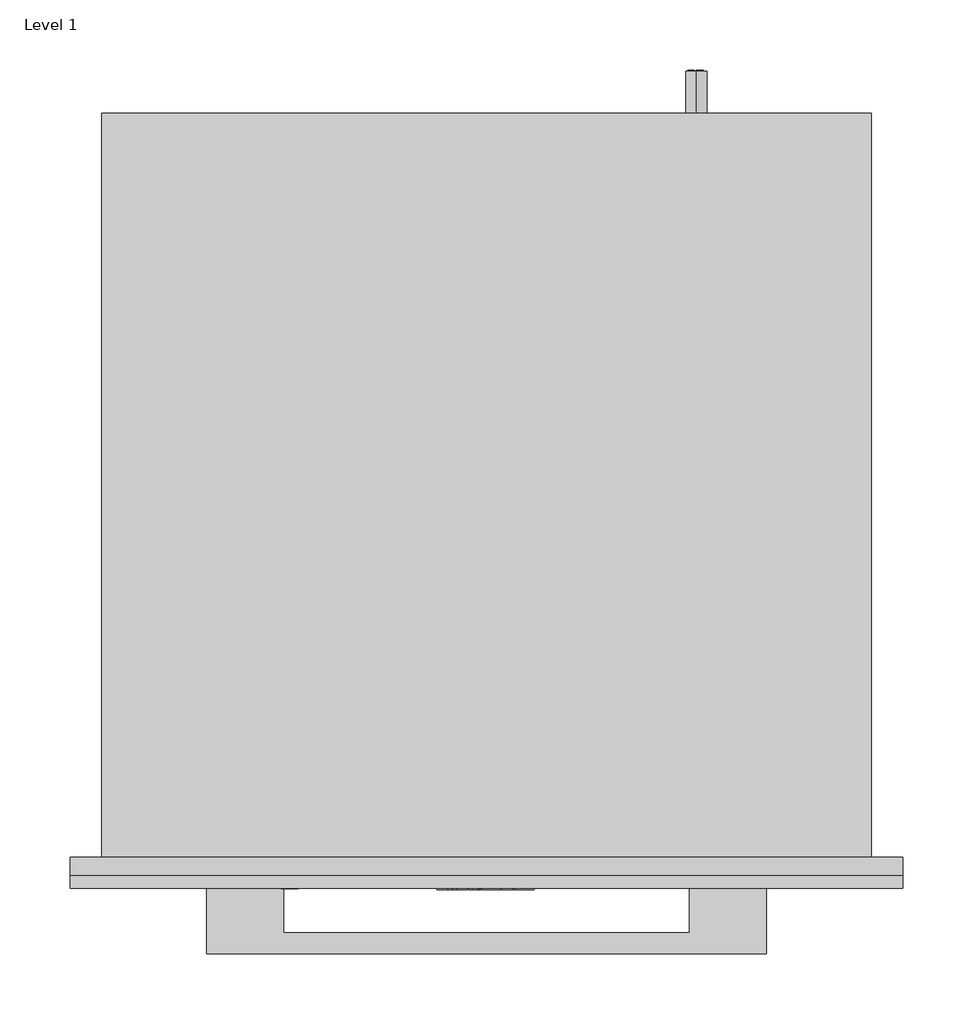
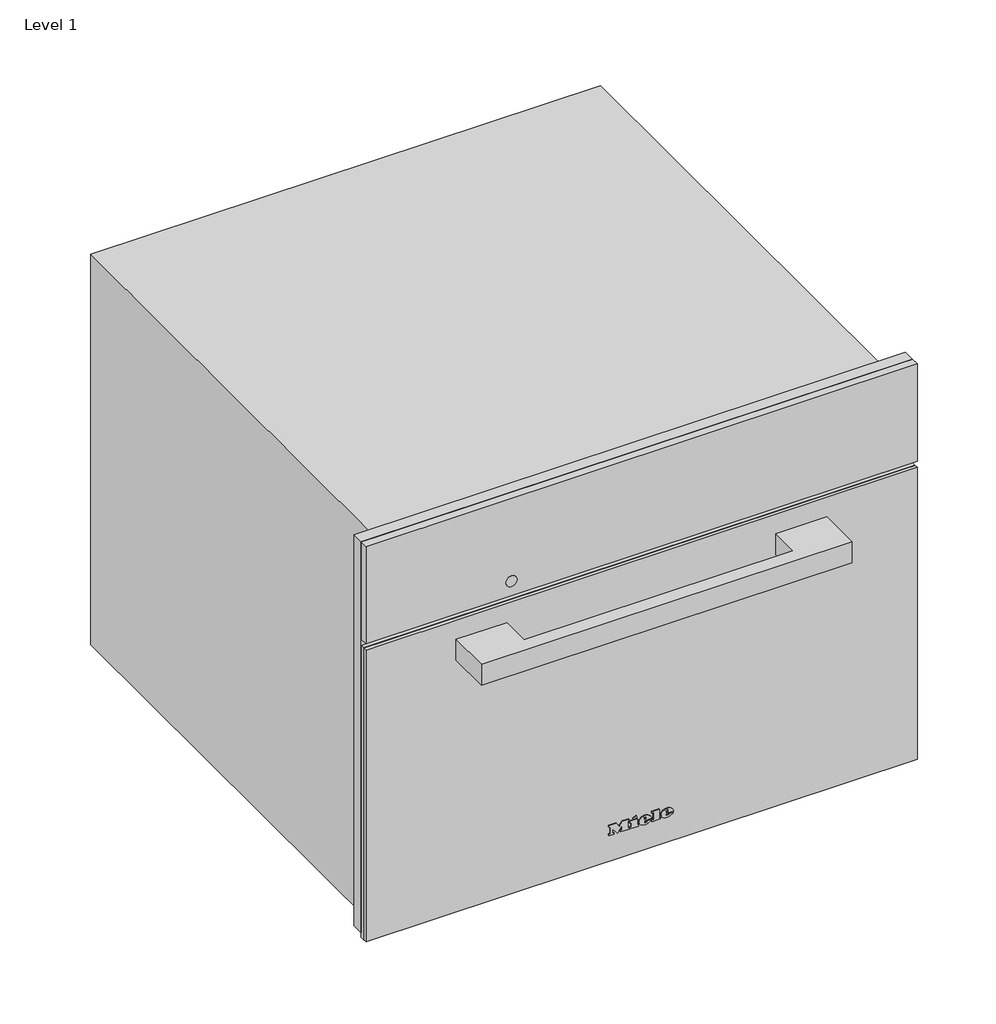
# One storey: 1 proxy.
"""IFC4 building model written with IfcOpenShell, lengths in millimetres."""

import ifcopenshell
import ifcopenshell.guid

model = None  # the IFC model being written
_history = None  # IfcOwnerHistory: only IFC2X3 demands one
_inside = {}  # id of a spatial element -> (the spatial element, [elements in it])
_under = {}  # id of a project, library or spatial element -> (it, [spatial elements below it])
_declared = {}  # id of a project -> (the project, [libraries it declares])
_typed = {}  # id of a type object -> (the type object, [elements of that type])
_made_of = {}  # id of a material, layer set ... -> (it, [elements and type objects made of it])


def new_model(schema):
    """Start an empty IFC model of exactly this schema.

    Asked for "IFC4X3", IfcOpenShell would pick the latest addendum, in which some entities
    have other attributes; the version numbers below select the first issue.
    IFC2X3 requires an IfcOwnerHistory on every rooted entity: one is made here for all.
    """
    global model, _history
    if schema == "IFC4X3":
        model = ifcopenshell.file(schema_version=(4, 3, 0, 0))
    else:
        model = ifcopenshell.file(schema=schema)
    _inside.clear()
    _under.clear()
    _declared.clear()
    _typed.clear()
    _made_of.clear()
    _history = None
    if model.schema == "IFC2X3":
        org = make("IfcOrganization", Name="unknown")
        user = make(
            "IfcPersonAndOrganization",
            ThePerson=make("IfcPerson", FamilyName="unknown"),
            TheOrganization=org,
        )
        app = make(
            "IfcApplication",
            ApplicationDeveloper=org,
            Version="unknown",
            ApplicationFullName="unknown",
            ApplicationIdentifier="unknown",
        )
        _history = make(
            "IfcOwnerHistory",
            OwningUser=user,
            OwningApplication=app,
            ChangeAction="ADDED",
            CreationDate=0,
        )
    return model


def make(cls, **values):
    """One entity of the class cls with the attributes given. An attribute that is None is left unset."""
    return model.create_entity(
        cls, **{name: value for name, value in values.items() if value is not None}
    )


def rooted(cls, **values):
    """An entity with a GlobalId (a new one), such as an element, a storey or a relation."""
    return make(cls, GlobalId=ifcopenshell.guid.new(), OwnerHistory=_history, **values)


def si_unit(unit_type, name, prefix=None):
    """IfcSIUnit, for example si_unit("LENGTHUNIT", "METRE", prefix="MILLI")."""
    return make("IfcSIUnit", UnitType=unit_type, Prefix=prefix, Name=name)


def assignment(units):
    """IfcUnitAssignment: the units of a project."""
    return None if units is None else make("IfcUnitAssignment", Units=units)


def point(xyz):
    """IfcCartesianPoint."""
    return None if xyz is None else make("IfcCartesianPoint", Coordinates=xyz)


def direction(xyz):
    """IfcDirection."""
    return None if xyz is None else make("IfcDirection", DirectionRatios=xyz)


def frame(location, z_axis=None, x_axis=None):
    """IfcAxis2Placement3D, a coordinate frame: its origin and axes. An axis left out is left unset."""
    return make(
        "IfcAxis2Placement3D",
        Location=point(location),
        Axis=direction(z_axis),
        RefDirection=direction(x_axis),
    )


def frame_2d(location, x_axis=None):
    """IfcAxis2Placement2D, a coordinate frame in the plane: its origin and x axis."""
    return make(
        "IfcAxis2Placement2D", Location=point(location), RefDirection=direction(x_axis)
    )


def origin():
    """The frame at (0, 0, 0) with its axes left unset."""
    return frame((0.0, 0.0, 0.0))


def place(relative_to, where):
    """IfcLocalPlacement: puts the frame where relative to a parent placement (None: the world)."""
    return make(
        "IfcLocalPlacement", PlacementRelTo=relative_to, RelativePlacement=where
    )


def context(
    kind, dimensions, precision=None, world=None, true_north=None, identifier=None
):
    """IfcGeometricRepresentationContext, for example the 3D "Model" context."""
    return make(
        "IfcGeometricRepresentationContext",
        ContextIdentifier=identifier,
        ContextType=kind,
        CoordinateSpaceDimension=dimensions,
        Precision=precision,
        WorldCoordinateSystem=world,
        TrueNorth=true_north,
    )


def project(units=None, contexts=None):
    """IfcProject with its units and contexts."""
    return rooted(
        "IfcProject",
        Name="project",
        RepresentationContexts=contexts,
        UnitsInContext=assignment(units),
    )


def spatial(cls, under=None, at=None, **own):
    """A site, building, storey or space (cls), placed at a placement, below another one or the project."""
    s = rooted(cls, ObjectPlacement=at, **own)
    if under is not None:
        _under.setdefault(under.id(), (under, []))[1].append(s)
    return s


def polyline(points):
    """IfcPolyline through the points."""
    return make("IfcPolyline", Points=[point(p) for p in points])


def circle_curve(where, radius):
    """IfcCircle in the frame where."""
    return make("IfcCircle", Position=where, Radius=radius)


def ellipse_curve(where, semi_axis1, semi_axis2):
    """IfcEllipse in the frame where."""
    return make(
        "IfcEllipse", Position=where, SemiAxis1=semi_axis1, SemiAxis2=semi_axis2
    )


def trimmed(basis, trim1, trim2, sense, master):
    """IfcTrimmedCurve: the piece of a basis curve between two trims."""
    return make(
        "IfcTrimmedCurve",
        BasisCurve=basis,
        Trim1=trim1,
        Trim2=trim2,
        SenseAgreement=sense,
        MasterRepresentation=master,
    )


def segment(curve, same_sense, transition):
    """IfcCompositeCurveSegment."""
    return make(
        "IfcCompositeCurveSegment",
        Transition=transition,
        SameSense=same_sense,
        ParentCurve=curve,
    )


def composite_curve(segments, self_intersect=None):
    """IfcCompositeCurve: segments joined end to end."""
    return make("IfcCompositeCurve", Segments=segments, SelfIntersect=self_intersect)


def outline(outer, holes=None, kind="AREA"):
    """IfcArbitraryClosedProfileDef: a profile drawn as a closed curve; with holes, ...WithVoids."""
    if holes is None:
        return make("IfcArbitraryClosedProfileDef", ProfileType=kind, OuterCurve=outer)
    return make(
        "IfcArbitraryProfileDefWithVoids",
        ProfileType=kind,
        OuterCurve=outer,
        InnerCurves=holes,
    )


def extrude(swept, where, along, depth):
    """IfcExtrudedAreaSolid: the profile swept, set in the frame where, extruded along a direction by depth."""
    return make(
        "IfcExtrudedAreaSolid",
        SweptArea=swept,
        Position=where,
        ExtrudedDirection=direction(along),
        Depth=depth,
    )


def faces_of(points, faces, orient=None, outer=None):
    """IfcFace entities. A face is a list of loops; a loop is a list of indices into points, from 0.

    orient and outer hold one flag for each loop. By default every Orientation is true, the
    first loop of a face is its IfcFaceOuterBound and the others are IfcFaceBound.
    """
    made = []
    for i, loops in enumerate(faces):
        bounds = []
        for j, loop in enumerate(loops):
            is_outer = j == 0 if outer is None else outer[i][j]
            bounds.append(
                make(
                    "IfcFaceOuterBound" if is_outer else "IfcFaceBound",
                    Bound=make("IfcPolyLoop", Polygon=[points[k] for k in loop]),
                    Orientation=True if orient is None else orient[i][j],
                )
            )
        made.append(make("IfcFace", Bounds=bounds))
    return made


def faceted_brep(points, faces, orient=None, outer=None, voids=None):
    """IfcFacetedBrep: a solid bounded by flat faces; with voids (closed shells), ...WithVoids."""
    shared = [point(p) for p in points]
    hull = make("IfcClosedShell", CfsFaces=faces_of(shared, faces, orient, outer))
    if voids is None:
        return make("IfcFacetedBrep", Outer=hull)
    return make(
        "IfcFacetedBrepWithVoids",
        Outer=hull,
        Voids=[
            make(cls, CfsFaces=faces_of(shared, fs, o, b)) for cls, fs, o, b in voids
        ],
    )


def shape(context_of_items, identifier, shape_type, items):
    """IfcShapeRepresentation: the items that make up one representation, for example the "Body"."""
    return make(
        "IfcShapeRepresentation",
        ContextOfItems=context_of_items,
        RepresentationIdentifier=identifier,
        RepresentationType=shape_type,
        Items=items,
    )


def source(mapping_origin, context_of_items, identifier, shape_type, items):
    """IfcRepresentationMap: a shape defined once, which mapped items show again and again."""
    return make(
        "IfcRepresentationMap",
        MappingOrigin=mapping_origin,
        MappedRepresentation=shape(context_of_items, identifier, shape_type, items),
    )


def transform(
    local_origin,
    x_axis=None,
    y_axis=None,
    z_axis=None,
    scale=None,
    scale2=None,
    scale3=None,
    uniform=True,
):
    """IfcCartesianTransformationOperator3D, or its non-uniform kind. x_axis, y_axis, z_axis: its Axis1, 2, 3."""
    if uniform:
        return make(
            "IfcCartesianTransformationOperator3D",
            Axis1=direction(x_axis),
            Axis2=direction(y_axis),
            LocalOrigin=point(local_origin),
            Scale=scale,
            Axis3=direction(z_axis),
        )
    return make(
        "IfcCartesianTransformationOperator3DnonUniform",
        Axis1=direction(x_axis),
        Axis2=direction(y_axis),
        LocalOrigin=point(local_origin),
        Scale=scale,
        Axis3=direction(z_axis),
        Scale2=scale2,
        Scale3=scale3,
    )


def mapped(mapping_source, mapping_target):
    """IfcMappedItem: shows the shape of a source again, moved by a transform."""
    return make(
        "IfcMappedItem", MappingSource=mapping_source, MappingTarget=mapping_target
    )


def made_of(thing, what):
    """Note that an element or type object is made of a material, layer set ...; save() writes the relation."""
    if what is not None:
        _made_of.setdefault(what.id(), (what, []))[1].append(thing)
    return thing


def element(
    cls,
    number,
    at=None,
    inside=None,
    cuts=None,
    type_object=None,
    material=None,
    context=None,
    identifier="Body",
    shape_type=None,
    held_by="IfcProductDefinitionShape",
    body=None,
    shapes=None,
    **own,
):
    """One element of the class cls, such as IfcWall. Its Tag is "e" and its number.

    at: its placement. inside: the storey or other place that contains it. cuts: it is an
    opening in that element (IfcRelVoidsElement). A single representation is given by context,
    identifier, shape_type and body (its items); several are given by shapes. held_by: the class
    of the entity that holds the representations. save() writes the other relations.
    """
    e = rooted(cls, Tag="e%d" % number, ObjectPlacement=at, **own)
    if body is not None:
        shapes = [shape(context, identifier, shape_type, body)]
    if shapes is not None:
        e.Representation = make(held_by, Representations=shapes)
    if inside is not None:
        _inside.setdefault(inside.id(), (inside, []))[1].append(e)
    if cuts is not None:
        rooted(
            "IfcRelVoidsElement", RelatingBuildingElement=cuts, RelatedOpeningElement=e
        )
    if type_object is not None:
        _typed.setdefault(type_object.id(), (type_object, []))[1].append(e)
    return made_of(e, material)


def aggregate(whole, parts):
    """IfcRelAggregates: a whole, such as a stair, and the parts it consists of."""
    return rooted("IfcRelAggregates", RelatingObject=whole, RelatedObjects=parts)


def save(model, path):
    """Write the relations noted so far, then the file.

    IfcRelAggregates (storeys below a building ...), IfcRelContainedInSpatialStructure (elements
    in a storey), IfcRelDefinesByType, IfcRelAssociatesMaterial and IfcRelDeclares: one each for
    every whole, place, type object, material and project.
    """
    for whole, parts in _under.values():
        aggregate(whole, parts)
    for where, things in _inside.values():
        rooted(
            "IfcRelContainedInSpatialStructure",
            RelatedElements=things,
            RelatingStructure=where,
        )
    for kind, things in _typed.values():
        rooted("IfcRelDefinesByType", RelatedObjects=things, RelatingType=kind)
    for what, things in _made_of.values():
        rooted("IfcRelAssociatesMaterial", RelatedObjects=things, RelatingMaterial=what)
    for by, libraries in _declared.values():
        rooted("IfcRelDeclares", RelatingContext=by, RelatedDefinitions=libraries)
    model.write(path)


def plane_surface(at):
    """IfcPlane: the flat surface through the origin of the frame at, square to its z axis."""
    return make("IfcPlane", Position=at)


def cylinder_surface(at, radius):
    """IfcCylindricalSurface: all points at the distance radius from the z axis of the frame at."""
    return make("IfcCylindricalSurface", Position=at, Radius=radius)


def revolved_surface(curve, axis_point, axis_direction):
    """IfcSurfaceOfRevolution: the curve turned about the line through axis_point along axis_direction."""
    return make(
        "IfcSurfaceOfRevolution",
        SweptCurve=make("IfcArbitraryOpenProfileDef", ProfileType="CURVE", Curve=curve),
        AxisPosition=make("IfcAxis1Placement", Location=point(axis_point), Axis=direction(axis_direction)),
    )


def extruded_surface(curve, direction_of_extrusion, depth):
    """IfcSurfaceOfLinearExtrusion: the curve pushed along a direction by depth."""
    return make(
        "IfcSurfaceOfLinearExtrusion",
        SweptCurve=make("IfcArbitraryOpenProfileDef", ProfileType="CURVE", Curve=curve),
        ExtrudedDirection=direction(direction_of_extrusion),
        Depth=depth,
    )


def advanced_brep(points, edges, surfaces, faces):
    """IfcAdvancedBrep: a solid bounded by faces that lie on surfaces and meet in shared edges.

    An edge is (start, end): straight between two places in points (the first is 0);
    or (start, end, curve); or (start, end, curve, False) where it runs against its curve.
    A face is (place in surfaces, loops), or (place, loops, False) where it looks against
    its surface's normal. A loop lists edges by number (the first is 1), with a minus sign
    where the edge is run from its end to its start. The first loop is the outer one.
    """
    corners = [point(p) for p in points]
    vertices = [make("IfcVertexPoint", VertexGeometry=c) for c in corners]
    made = []
    for start, end, *more in edges:
        made.append(
            make(
                "IfcEdgeCurve",
                EdgeStart=vertices[start],
                EdgeEnd=vertices[end],
                EdgeGeometry=more[0] if more else make("IfcPolyline", Points=[corners[start], corners[end]]),
                SameSense=more[1] if len(more) > 1 else True,
            )
        )
    hull = []
    for where, loops, *sense in faces:
        bounds = []
        for j, loop in enumerate(loops):
            ring = [make("IfcOrientedEdge", EdgeElement=made[abs(k) - 1], Orientation=k > 0) for k in loop]
            bounds.append(
                make(
                    "IfcFaceOuterBound" if j == 0 else "IfcFaceBound",
                    Bound=make("IfcEdgeLoop", EdgeList=ring),
                    Orientation=True,
                )
            )
        hull.append(make("IfcAdvancedFace", Bounds=bounds, FaceSurface=surfaces[where], SameSense=sense[0] if sense else True))
    return make("IfcAdvancedBrep", Outer=make("IfcClosedShell", CfsFaces=hull))


def specialty_equipment_aa7fc179(model_context):
    return source(origin(), model_context, "Body", "SolidModel", [
        extrude(outline(polyline([(455.0, 297.5), (455.0, -297.5), (9.0, -297.5), (9.0, -272.5), (344.0, -272.5), (344.0, 272.5), (9.0, 272.5), (9.0, 297.5), (455.0, 297.5)])), frame((0.0, -13.0, 0.0), z_axis=(0.0, 1.0, 0.0), x_axis=(0.0, 0.0, 1.0)), (0.0, 0.0, 1.0), 13.0),
        advanced_brep(
        [(150.0, 561.0, 410.5), (150.0, 561.0, 395.5), (144.4098301, 561.0, 398.0), (148.5, 561.0, 398.0), (148.5, 561.0, 408.0), (147.4955303, 561.0, 408.0), (147.4955303, 561.0, 399.0), (144.0315043, 561.0, 399.0), (144.0315043, 561.0, 398.4582978), (155.0, 561.0, 398.0), (155.0, 561.0, 408.0), (150.0, 561.0, 408.0), (150.0, 561.0, 407.0), (154.0, 561.0, 407.0), (154.0, 561.0, 403.5), (151.0, 561.0, 403.5), (151.0, 561.0, 402.5), (154.0, 561.0, 402.5), (154.0, 561.0, 399.0), (150.0, 561.0, 399.0), (150.0, 561.0, 398.0), (150.0, 531.0, 395.5), (150.0, 531.0, 410.5), (155.0, 562.0, 408.0), (155.0, 562.0, 398.0), (150.0, 562.0, 398.0), (150.0, 562.0, 399.0), (154.0, 562.0, 399.0), (154.0, 562.0, 402.5), (151.0, 562.0, 402.5), (151.0, 562.0, 403.5), (154.0, 562.0, 403.5), (154.0, 562.0, 407.0), (150.0, 562.0, 407.0), (150.0, 562.0, 408.0), (148.5, 562.0, 398.0), (144.0315043, 562.0, 398.0), (144.0315043, 562.0, 399.0), (147.4955303, 562.0, 399.0), (147.4955303, 562.0, 408.0), (148.5, 562.0, 408.0), (144.0315043, 561.0, 398.0)],
        [
            (0, 1, circle_curve(frame((150.0, 561.0, 403.0), z_axis=(0.0, 1.0, 0.0), x_axis=(0.0, 0.0, 1.0)), 7.5)),
            (1, 2, circle_curve(frame((150.0, 561.0, 403.0), z_axis=(0.0, 1.0, 0.0), x_axis=(0.0, 0.0, 1.0)), 7.5)),
            (2, 3),
            (3, 4),
            (4, 5),
            (5, 6),
            (6, 7),
            (7, 8),
            (8, 0, circle_curve(frame((150.0, 561.0, 403.0), z_axis=(0.0, 1.0, 0.0), x_axis=(0.0, 0.0, 1.0)), 7.5)),
            (9, 10),
            (10, 11),
            (11, 12),
            (12, 13),
            (13, 14),
            (14, 15),
            (15, 16),
            (16, 17),
            (17, 18),
            (18, 19),
            (19, 20),
            (20, 9),
            (21, 22, circle_curve(frame((150.0, 531.0, 403.0), z_axis=(0.0, -1.0, 0.0), x_axis=(0.0, 0.0, 1.0)), 7.5)),
            (22, 21, circle_curve(frame((150.0, 531.0, 403.0), z_axis=(0.0, -1.0, 0.0), x_axis=(0.0, 0.0, 1.0)), 7.5)),
            (0, 22),
            (21, 1),
            (8, 2, circle_curve(frame((150.0, 561.0, 403.0), z_axis=(0.0, -1.0, 0.0), x_axis=(0.0, 0.0, 1.0)), 7.5)),
            (23, 24),
            (24, 25),
            (25, 26),
            (26, 27),
            (27, 28),
            (28, 29),
            (29, 30),
            (30, 31),
            (31, 32),
            (32, 33),
            (33, 34),
            (34, 23),
            (35, 36),
            (36, 37),
            (37, 38),
            (38, 39),
            (39, 40),
            (40, 35),
            (8, 41),
            (41, 2),
            (23, 10),
            (9, 24),
            (20, 25),
            (19, 26),
            (18, 27),
            (17, 28),
            (16, 29),
            (15, 30),
            (14, 31),
            (13, 32),
            (12, 33),
            (11, 34),
            (35, 3),
            (41, 36),
            (7, 37),
            (6, 38),
            (5, 39),
            (4, 40),
        ],
        [
            plane_surface(frame((150.0, 561.0, 410.5), z_axis=(0.0, 1.0, 0.0), x_axis=(1.0, 0.0, 0.0))),
            plane_surface(frame((150.0, 531.0, 410.5), z_axis=(0.0, -1.0, 0.0), x_axis=(-1.0, 0.0, 0.0))),
            cylinder_surface(frame((150.0, 561.0, 403.0), z_axis=(0.0, -1.0, 0.0), x_axis=(0.0, 0.0, 1.0)), 7.5),
            plane_surface(frame((155.0, 562.0, 408.0), z_axis=(0.0, 1.0, 0.0), x_axis=(0.0, 0.0, -1.0))),
            plane_surface(frame((155.0, 561.0, 408.0), z_axis=(0.0, -1.0, 0.0), x_axis=(0.0, 0.0, 1.0))),
            plane_surface(frame((155.0, 562.0, 408.0), z_axis=(1.0, 0.0, 0.0), x_axis=(0.0, -1.0, 0.0))),
            plane_surface(frame((155.0, 562.0, 398.0), z_axis=(0.0, 0.0, -1.0), x_axis=(0.0, -1.0, 0.0))),
            plane_surface(frame((150.0, 562.0, 398.0), z_axis=(-1.0, 0.0, 0.0), x_axis=(0.0, -1.0, 0.0))),
            plane_surface(frame((150.0, 562.0, 399.0), z_axis=(0.0, 0.0, 1.0), x_axis=(0.0, -1.0, 0.0))),
            plane_surface(frame((154.0, 562.0, 399.0), z_axis=(-1.0, 0.0, 0.0), x_axis=(0.0, -1.0, 0.0))),
            plane_surface(frame((154.0, 562.0, 402.5), z_axis=(0.0, 0.0, -1.0), x_axis=(0.0, -1.0, 0.0))),
            plane_surface(frame((151.0, 562.0, 402.5), z_axis=(-1.0, 0.0, 0.0), x_axis=(0.0, -1.0, 0.0))),
            plane_surface(frame((151.0, 562.0, 403.5), z_axis=(0.0, 0.0, 1.0), x_axis=(0.0, -1.0, 0.0))),
            plane_surface(frame((154.0, 562.0, 403.5), z_axis=(-1.0, 0.0, 0.0), x_axis=(0.0, -1.0, 0.0))),
            plane_surface(frame((154.0, 562.0, 407.0), z_axis=(0.0, 0.0, -1.0), x_axis=(0.0, -1.0, 0.0))),
            plane_surface(frame((150.0, 562.0, 407.0), z_axis=(-1.0, 0.0, 0.0), x_axis=(0.0, -1.0, 0.0))),
            plane_surface(frame((150.0, 562.0, 408.0), z_axis=(0.0, 0.0, 1.0), x_axis=(0.0, -1.0, 0.0))),
            plane_surface(frame((148.5, 562.0, 398.0), z_axis=(0.0, 0.0, -1.0), x_axis=(0.0, -1.0, 0.0))),
            plane_surface(frame((144.0315043, 562.0, 398.0), z_axis=(-1.0, 0.0, 0.0), x_axis=(0.0, -1.0, 0.0))),
            plane_surface(frame((144.0315043, 562.0, 399.0), z_axis=(0.0, 0.0, 1.0), x_axis=(0.0, -1.0, 0.0))),
            plane_surface(frame((147.4955303, 562.0, 399.0), z_axis=(-1.0, 0.0, 0.0), x_axis=(0.0, -1.0, 0.0))),
            plane_surface(frame((147.4955303, 562.0, 408.0), z_axis=(0.0, 0.0, 1.0), x_axis=(0.0, -1.0, 0.0))),
            plane_surface(frame((148.5, 562.0, 408.0), z_axis=(1.0, 0.0, 0.0), x_axis=(0.0, -1.0, 0.0))),
        ],
        [
            (0, [[1, 2, 3, 4, 5, 6, 7, 8, 9], [10, 11, 12, 13, 14, 15, 16, 17, 18, 19, 20, 21]]),
            (1, [[22, 23]]),
            (2, [[-1, 24, -22, 25]]),
            (2, [[-23, -24, -9, 26, -2, -25]]),
            (3, [[27, 28, 29, 30, 31, 32, 33, 34, 35, 36, 37, 38]]),
            (3, [[39, 40, 41, 42, 43, 44]]),
            (4, [[45, 46, -26]]),
            (5, [[-27, 47, -10, 48]]),
            (6, [[-28, -48, -21, 49]]),
            (7, [[-29, -49, -20, 50]]),
            (8, [[-30, -50, -19, 51]]),
            (9, [[-31, -51, -18, 52]]),
            (10, [[-32, -52, -17, 53]]),
            (11, [[-33, -53, -16, 54]]),
            (12, [[-34, -54, -15, 55]]),
            (13, [[-35, -55, -14, 56]]),
            (14, [[-36, -56, -13, 57]]),
            (15, [[-37, -57, -12, 58]]),
            (16, [[-38, -58, -11, -47]]),
            (17, [[-39, 59, -3, -46, 60]]),
            (18, [[-40, -60, -45, -8, 61]]),
            (19, [[-41, -61, -7, 62]]),
            (20, [[-42, -62, -6, 63]]),
            (21, [[-43, -63, -5, 64]]),
            (22, [[-44, -64, -4, -59]]),
        ],
    ),
        faceted_brep([(275.0, 531.0, 445.0), (275.0, 531.0, 0.0), (-275.0, 531.0, 0.0), (-275.0, 531.0, 445.0), (275.0, 0.0, 445.0), (-275.0, 0.0, 445.0), (-275.0, 0.0, 0.0), (275.0, 0.0, 0.0), (-272.5, 0.0, 344.0), (272.5, 0.0, 344.0), (272.5, 0.0, 8.0), (-272.5, 0.0, 8.0), (272.5, 12.0, 344.0), (-272.5, 12.0, 344.0), (-272.5, 12.0, 8.0), (272.5, 12.0, 8.0), (161.0, 12.0, 286.0), (161.0, 12.0, 58.0), (-220.0, 12.0, 58.0), (-220.0, 12.0, 286.0), (161.0, 419.0, 286.0), (-220.0, 419.0, 286.0), (-220.0, 419.0, 58.0), (161.0, 419.0, 58.0)], [[[0, 1, 2, 3]], [[4, 5, 6, 7], [8, 9, 10, 11]], [[0, 3, 5, 4]], [[3, 2, 6, 5]], [[2, 1, 7, 6]], [[1, 0, 4, 7]], [[12, 13, 14, 15], [16, 17, 18, 19]], [[13, 12, 9, 8]], [[14, 13, 8, 11]], [[15, 14, 11, 10]], [[12, 15, 10, 9]], [[20, 21, 22, 23]], [[20, 23, 17, 16]], [[23, 22, 18, 17]], [[22, 21, 19, 18]], [[21, 20, 16, 19]]]),
        advanced_brep(
        [(26.2998, -23.0, 36.7018), (26.2998, -23.0, 37.8532), (33.9264, -23.0, 37.8532), (20.6568, -23.0, 37.8532), (23.7918, -23.0, 34.0), (33.7326, -23.0, 36.7018), (30.2898, -23.0, 36.7018), (27.5766, -23.0, 35.425), (26.2998, -23.0, 39.3124), (26.2998, -23.0, 40.555), (28.2492, -23.0, 40.555), (28.2492, -23.0, 39.3124), (26.2998, -22.0, 36.7018), (27.5766, -22.0, 35.425), (30.2898, -22.0, 36.7018), (33.7326, -22.0, 36.7018), (23.7918, -22.0, 34.0), (20.6568, -22.0, 37.8532), (33.9264, -22.0, 37.8532), (26.2998, -22.0, 37.8532), (26.2998, -22.0, 39.3124), (28.2492, -22.0, 39.3124), (28.2492, -22.0, 40.555), (26.2998, -22.0, 40.555)],
        [
            (0, 1),
            (1, 2),
            (2, 3, ellipse_curve(frame((27.2916, -23.0, 37.8532), z_axis=(0.0, -1.0, 0.0), x_axis=(-1.0, 0.0, 0.0)), 6.6348, 5.4834)),
            (3, 4, circle_curve(frame((25.0686622, -23.0, 38.2408), z_axis=(0.0, -1.0, 0.0), x_axis=(0.0, 0.0, -1.0)), 4.4288556)),
            (4, 5, circle_curve(frame((27.1587808, -23.0, 41.2504), z_axis=(0.0, -1.0, 0.0), x_axis=(0.0, 0.0, -1.0)), 7.9940516)),
            (5, 6),
            (6, 7, circle_curve(frame((28.1338588, -23.0, 37.762), z_axis=(0.0, 1.0, 0.0), x_axis=(0.0, 0.0, -1.0)), 2.4025208)),
            (7, 0, circle_curve(frame((27.5766, -23.0, 36.7018), z_axis=(0.0, 1.0, 0.0), x_axis=(0.0, 0.0, -1.0)), 1.2768)),
            (8, 9),
            (9, 10, circle_curve(frame((27.2745, -23.0, 40.555), z_axis=(0.0, 1.0, 0.0), x_axis=(0.0, 0.0, -1.0)), 0.9747)),
            (10, 11),
            (11, 8),
            (12, 13, circle_curve(frame((27.5766, -22.0, 36.7018), z_axis=(0.0, -1.0, 0.0), x_axis=(0.0, 0.0, -1.0)), 1.2768)),
            (13, 14, circle_curve(frame((28.1338588, -22.0, 37.762), z_axis=(0.0, -1.0, 0.0), x_axis=(0.0, 0.0, -1.0)), 2.4025208)),
            (14, 15),
            (15, 16, circle_curve(frame((27.1587808, -22.0, 41.2504), z_axis=(0.0, 1.0, 0.0), x_axis=(0.0, 0.0, -1.0)), 7.9940516)),
            (16, 17, circle_curve(frame((25.0686622, -22.0, 38.2408), z_axis=(0.0, 1.0, 0.0), x_axis=(0.0, 0.0, -1.0)), 4.4288556)),
            (17, 18, ellipse_curve(frame((27.2916, -22.0, 37.8532), z_axis=(0.0, 1.0, 0.0), x_axis=(-1.0, 0.0, 0.0)), 6.6348, 5.4834)),
            (18, 19),
            (19, 12),
            (20, 21),
            (21, 22),
            (22, 23, circle_curve(frame((27.2745, -22.0, 40.555), z_axis=(0.0, -1.0, 0.0), x_axis=(0.0, 0.0, -1.0)), 0.9747)),
            (23, 20),
            (0, 12),
            (19, 1),
            (18, 2),
            (5, 15),
            (14, 6),
            (17, 3),
            (13, 7),
            (16, 4),
            (8, 20),
            (23, 9),
            (22, 10),
            (21, 11),
        ],
        [
            plane_surface(frame((26.2998, -23.0, 37.8532), z_axis=(0.0, -1.0, 0.0), x_axis=(0.0, 0.0, 1.0))),
            plane_surface(frame((26.2998, -22.0, 37.8532), z_axis=(0.0, 1.0, 0.0), x_axis=(0.0, 0.0, -1.0))),
            plane_surface(frame((26.2998, -23.0, 36.7018), z_axis=(1.0, 0.0, 0.0), x_axis=(0.0, 1.0, 0.0))),
            plane_surface(frame((26.2998, -23.0, 37.8532), z_axis=(0.0, 0.0, -1.0), x_axis=(0.0, 1.0, 0.0))),
            plane_surface(frame((33.7326, -23.0, 36.7018), z_axis=(0.0, 0.0, 1.0), x_axis=(0.0, 1.0, 0.0))),
            extruded_surface(trimmed(ellipse_curve(frame((27.2916, -21.0, 37.8532), z_axis=(0.0, -1.0, 0.0), x_axis=(-1.0, 0.0, 0.0)), 6.6348, 5.4834), [point((33.9264, -21.0, 37.8532))], [point((20.6568, -21.0, 37.8532))], True, "CARTESIAN"), (0.0, -1.0, 0.0), 1.0),
            revolved_surface(polyline([(28.1338588, -22.0, 35.3594792), (28.1338588, -23.0, 35.3594792)]), (28.1338588, -22.0, 37.762), (0.0, 1.0, 0.0)),
            revolved_surface(polyline([(27.5766, -22.0, 35.425), (27.5766, -23.0, 35.425)]), (27.5766, -22.0, 36.7018), (0.0, 1.0, 0.0)),
            cylinder_surface(frame((25.0686622, -22.0, 38.2408), z_axis=(0.0, -1.0, 0.0), x_axis=(0.0, 0.0, -1.0)), 4.4288556),
            cylinder_surface(frame((27.1587808, -22.0, 41.2504), z_axis=(0.0, -1.0, 0.0), x_axis=(0.0, 0.0, -1.0)), 7.9940516),
            plane_surface(frame((26.2998, -23.0, 39.3124), z_axis=(1.0, 0.0, 0.0), x_axis=(0.0, 1.0, 0.0))),
            revolved_surface(polyline([(27.2745, -22.0, 39.5803), (27.2745, -23.0, 39.5803)]), (27.2745, -22.0, 40.555), (0.0, 1.0, 0.0)),
            plane_surface(frame((28.2492, -23.0, 40.555), z_axis=(-1.0, 0.0, 0.0), x_axis=(0.0, 1.0, 0.0))),
            plane_surface(frame((28.2492, -23.0, 39.3124), z_axis=(0.0, 0.0, 1.0), x_axis=(0.0, 1.0, 0.0))),
        ],
        [
            (0, [[1, 2, 3, 4, 5, 6, 7, 8], [9, 10, 11, 12]]),
            (1, [[13, 14, 15, 16, 17, 18, 19, 20], [21, 22, 23, 24]]),
            (2, [[-1, 25, -20, 26]]),
            (3, [[-2, -26, -19, 27]]),
            (4, [[-6, 28, -15, 29]]),
            (5, [[-3, -27, -18, 30]]),
            (6, [[-7, -29, -14, 31]]),
            (7, [[-8, -31, -13, -25]]),
            (8, [[-4, -30, -17, 32]]),
            (9, [[-5, -32, -16, -28]]),
            (10, [[-9, 33, -24, 34]]),
            (11, [[-10, -34, -23, 35]]),
            (12, [[-11, -35, -22, 36]]),
            (13, [[-12, -36, -21, -33]]),
        ],
    ),
        advanced_brep(
        [(2.508, -23.0, 36.7018), (2.508, -23.0, 37.8532), (10.1346, -23.0, 37.8532), (-3.135, -23.0, 37.8532), (0.0, -23.0, 34.0), (9.9408, -23.0, 36.7018), (6.498, -23.0, 36.7018), (3.7848, -23.0, 35.425), (2.508, -23.0, 39.3124), (2.508, -23.0, 40.555), (4.4574, -23.0, 40.555), (4.4574, -23.0, 39.3124), (2.508, -22.0, 36.7018), (3.7848, -22.0, 35.425), (6.498, -22.0, 36.7018), (9.9408, -22.0, 36.7018), (0.0, -22.0, 34.0), (-3.135, -22.0, 37.8532), (10.1346, -22.0, 37.8532), (2.508, -22.0, 37.8532), (2.508, -22.0, 39.3124), (4.4574, -22.0, 39.3124), (4.4574, -22.0, 40.555), (2.508, -22.0, 40.555)],
        [
            (0, 1),
            (1, 2),
            (2, 3, ellipse_curve(frame((3.4998, -23.0, 37.8532), z_axis=(0.0, -1.0, 0.0), x_axis=(-1.0, 0.0, 0.0)), 6.6348, 5.4834)),
            (3, 4, circle_curve(frame((1.2768622, -23.0, 38.2408), z_axis=(0.0, -1.0, 0.0), x_axis=(0.0, 0.0, -1.0)), 4.4288556)),
            (4, 5, circle_curve(frame((3.3669808, -23.0, 41.2504), z_axis=(0.0, -1.0, 0.0), x_axis=(0.0, 0.0, -1.0)), 7.9940516)),
            (5, 6),
            (6, 7, circle_curve(frame((4.3420588, -23.0, 37.762), z_axis=(0.0, 1.0, 0.0), x_axis=(0.0, 0.0, -1.0)), 2.4025208)),
            (7, 0, circle_curve(frame((3.7848, -23.0, 36.7018), z_axis=(0.0, 1.0, 0.0), x_axis=(0.0, 0.0, -1.0)), 1.2768)),
            (8, 9),
            (9, 10, circle_curve(frame((3.4827, -23.0, 40.555), z_axis=(0.0, 1.0, 0.0), x_axis=(0.0, 0.0, -1.0)), 0.9747)),
            (10, 11),
            (11, 8),
            (12, 13, circle_curve(frame((3.7848, -22.0, 36.7018), z_axis=(0.0, -1.0, 0.0), x_axis=(0.0, 0.0, -1.0)), 1.2768)),
            (13, 14, circle_curve(frame((4.3420588, -22.0, 37.762), z_axis=(0.0, -1.0, 0.0), x_axis=(0.0, 0.0, -1.0)), 2.4025208)),
            (14, 15),
            (15, 16, circle_curve(frame((3.3669808, -22.0, 41.2504), z_axis=(0.0, 1.0, 0.0), x_axis=(0.0, 0.0, -1.0)), 7.9940516)),
            (16, 17, circle_curve(frame((1.2768622, -22.0, 38.2408), z_axis=(0.0, 1.0, 0.0), x_axis=(0.0, 0.0, -1.0)), 4.4288556)),
            (17, 18, ellipse_curve(frame((3.4998, -22.0, 37.8532), z_axis=(0.0, 1.0, 0.0), x_axis=(-1.0, 0.0, 0.0)), 6.6348, 5.4834)),
            (18, 19),
            (19, 12),
            (20, 21),
            (21, 22),
            (22, 23, circle_curve(frame((3.4827, -22.0, 40.555), z_axis=(0.0, -1.0, 0.0), x_axis=(0.0, 0.0, -1.0)), 0.9747)),
            (23, 20),
            (0, 12),
            (19, 1),
            (18, 2),
            (5, 15),
            (14, 6),
            (17, 3),
            (13, 7),
            (16, 4),
            (8, 20),
            (23, 9),
            (22, 10),
            (21, 11),
        ],
        [
            plane_surface(frame((2.508, -23.0, 37.8532), z_axis=(0.0, -1.0, 0.0), x_axis=(0.0, 0.0, 1.0))),
            plane_surface(frame((2.508, -22.0, 37.8532), z_axis=(0.0, 1.0, 0.0), x_axis=(0.0, 0.0, -1.0))),
            plane_surface(frame((2.508, -23.0, 36.7018), z_axis=(1.0, 0.0, 0.0), x_axis=(0.0, 1.0, 0.0))),
            plane_surface(frame((2.508, -23.0, 37.8532), z_axis=(0.0, 0.0, -1.0), x_axis=(0.0, 1.0, 0.0))),
            plane_surface(frame((9.9408, -23.0, 36.7018), z_axis=(0.0, 0.0, 1.0), x_axis=(0.0, 1.0, 0.0))),
            extruded_surface(trimmed(ellipse_curve(frame((3.4998, -21.0, 37.8532), z_axis=(0.0, -1.0, 0.0), x_axis=(-1.0, 0.0, 0.0)), 6.6348, 5.4834), [point((10.1346, -21.0, 37.8532))], [point((-3.135, -21.0, 37.8532))], True, "CARTESIAN"), (0.0, -1.0, 0.0), 1.0),
            revolved_surface(polyline([(4.3420588, -22.0, 35.3594792), (4.3420588, -23.0, 35.3594792)]), (4.3420588, -22.0, 37.762), (0.0, 1.0, 0.0)),
            revolved_surface(polyline([(3.7848, -22.0, 35.425), (3.7848, -23.0, 35.425)]), (3.7848, -22.0, 36.7018), (0.0, 1.0, 0.0)),
            cylinder_surface(frame((1.2768622, -22.0, 38.2408), z_axis=(0.0, -1.0, 0.0), x_axis=(0.0, 0.0, -1.0)), 4.4288556),
            cylinder_surface(frame((3.3669808, -22.0, 41.2504), z_axis=(0.0, -1.0, 0.0), x_axis=(0.0, 0.0, -1.0)), 7.9940516),
            plane_surface(frame((2.508, -23.0, 39.3124), z_axis=(1.0, 0.0, 0.0), x_axis=(0.0, 1.0, 0.0))),
            revolved_surface(polyline([(3.4827, -22.0, 39.5803), (3.4827, -23.0, 39.5803)]), (3.4827, -22.0, 40.555), (0.0, 1.0, 0.0)),
            plane_surface(frame((4.4574, -23.0, 40.555), z_axis=(-1.0, 0.0, 0.0), x_axis=(0.0, 1.0, 0.0))),
            plane_surface(frame((4.4574, -23.0, 39.3124), z_axis=(0.0, 0.0, 1.0), x_axis=(0.0, 1.0, 0.0))),
        ],
        [
            (0, [[1, 2, 3, 4, 5, 6, 7, 8], [9, 10, 11, 12]]),
            (1, [[13, 14, 15, 16, 17, 18, 19, 20], [21, 22, 23, 24]]),
            (2, [[-1, 25, -20, 26]]),
            (3, [[-2, -26, -19, 27]]),
            (4, [[-6, 28, -15, 29]]),
            (5, [[-3, -27, -18, 30]]),
            (6, [[-7, -29, -14, 31]]),
            (7, [[-8, -31, -13, -25]]),
            (8, [[-4, -30, -17, 32]]),
            (9, [[-5, -32, -16, -28]]),
            (10, [[-9, 33, -24, 34]]),
            (11, [[-10, -34, -23, 35]]),
            (12, [[-11, -35, -22, 36]]),
            (13, [[-12, -36, -21, -33]]),
        ],
    ),
        extrude(outline(polyline([(44.7274, -9.9522), (42.8806, -9.0858), (44.6818, -5.2212), (46.5286, -6.0762), (44.7274, -9.9522)])), frame((0.0, -23.0, 0.0), z_axis=(0.0, 1.0, 0.0), x_axis=(0.0, 0.0, 1.0)), (0.0, 0.0, 1.0), 1.0),
        extrude(outline(polyline([(42.6298, -12.768), (40.5892, -12.768), (40.5892, -11.4114), (35.9152, -11.4114), (35.9152, -12.768), (34.0, -12.768), (34.0, -3.7734), (35.9152, -3.7734), (35.9152, -5.0958), (42.6298, -5.0958), (42.6298, -12.768)])), frame((0.0, -23.0, 0.0), z_axis=(0.0, 1.0, 0.0), x_axis=(0.0, 0.0, 1.0)), (0.0, 0.0, 1.0), 1.0),
        extrude(outline(polyline([(43.5418, 10.773), (43.5418, 12.141), (35.9152, 12.141), (35.9152, 10.773), (34.0, 10.773), (34.0, 20.0184), (35.9152, 20.0184), (35.9152, 18.6162), (45.4, 18.6162), (45.4, 10.773), (43.5418, 10.773)])), frame((0.0, -23.0, 0.0), z_axis=(0.0, 1.0, 0.0), x_axis=(0.0, 0.0, 1.0)), (0.0, 0.0, 1.0), 1.0),
        extrude(outline(polyline([(43.5418, -35.4882), (43.5418, -34.1088), (35.9152, -34.1088), (35.9152, -35.4882), (34.0, -35.4882), (34.0, -30.4722), (35.9152, -30.4722), (35.9152, -31.8402), (40.7429247, -31.8402), (34.0, -26.7444), (40.9402223, -21.6258), (35.9152, -21.6258), (35.9152, -23.028), (34.0, -23.028), (34.0, -13.9308), (35.9152, -13.9308), (35.9152, -15.3786), (43.5418, -15.3786), (43.5418, -13.9308), (45.4, -13.9308), (45.4, -20.8734), (41.125, -24.2022), (45.4, -27.5424), (45.4, -35.4882), (43.5418, -35.4882)])), frame((0.0, -23.0, 0.0), z_axis=(0.0, 1.0, 0.0), x_axis=(0.0, 0.0, 1.0)), (0.0, 0.0, 1.0), 1.0),
        extrude(outline(polyline([(297.5, -22.0), (-297.5, -22.0), (-297.5, -13.0), (297.5, -13.0), (297.5, -22.0)])), frame((0.0, 0.0, 344.0), z_axis=(0.0, 0.0, 1.0), x_axis=(1.0, 0.0, 0.0)), (0.0, 0.0, 1.0), 111.0),
        extrude(outline(composite_curve([segment(trimmed(circle_curve(frame_2d((361.0, -140.5745637)), 6.0), [point((361.0, -146.5745637))], [point((361.0, -134.5745637))], False, "CARTESIAN"), True, "CONTINUOUS"), segment(trimmed(circle_curve(frame_2d((361.0, -140.5745637)), 6.0), [point((361.0, -134.5745637))], [point((361.0, -146.5745637))], False, "CARTESIAN"), True, "CONTINUOUS")], self_intersect=False)), frame((0.0, -22.5, 0.0), z_axis=(0.0, 1.0, 0.0), x_axis=(0.0, 0.0, 1.0)), (0.0, 0.0, 1.0), 1.0),
        extrude(outline(polyline([(-200.0, -69.0), (-200.0, -22.0), (-145.0, -22.0), (-145.0, -54.0), (145.0, -54.0), (145.0, -22.0), (200.0, -22.0), (200.0, -69.0), (-200.0, -69.0)])), frame((0.0, 0.0, 291.0), z_axis=(0.0, 0.0, 1.0), x_axis=(1.0, 0.0, 0.0)), (0.0, 0.0, 1.0), 24.0),
        extrude(outline(polyline([(297.5, -18.0), (-297.5, -18.0), (-297.5, -13.0), (297.5, -13.0), (297.5, -18.0)])), frame((0.0, 0.0, 4.0), z_axis=(0.0, 0.0, 1.0), x_axis=(1.0, 0.0, 0.0)), (0.0, 0.0, 1.0), 333.0),
        extrude(outline(polyline([(-297.5, -18.0), (297.5, -18.0), (297.5, -22.0), (-297.5, -22.0), (-297.5, -18.0)])), frame((0.0, 0.0, 4.0), z_axis=(0.0, 0.0, 1.0), x_axis=(1.0, 0.0, 0.0)), (0.0, 0.0, 1.0), 333.0),
    ])


model = new_model("IFC4")

# Units and contexts
model_context = context("Model", 3, world=origin())
ifc_project = project(units=[si_unit("LENGTHUNIT", "METRE", prefix="MILLI")], contexts=[model_context])

# Site, building, storey
site = spatial("IfcSite", under=ifc_project)
building = spatial("IfcBuilding", under=site)
storey = spatial("IfcBuildingStorey", under=building, Name="Level 1", Elevation=0.0)

# Proxy
placement = place(None, origin())
specialty_equipment_shape = specialty_equipment_aa7fc179(model_context)
element("IfcBuildingElementProxy", 1, Name="11134560_I_DGM7640_OBSW : 23764024_I_11134560_DGM7640_OBSW", ObjectType="11134560_I_DGM7640_OBSW : 23764024_I_11134560_DGM7640_OBSW", at=placement, inside=storey, context=model_context, shape_type="MappedRepresentation", body=[
    mapped(specialty_equipment_shape, transform((0.0, 0.0, 0.0), x_axis=(1.0, 0.0, 0.0), y_axis=(0.0, 1.0, 0.0), z_axis=(0.0, 0.0, 1.0))),
])

save(model, "model.ifc")
